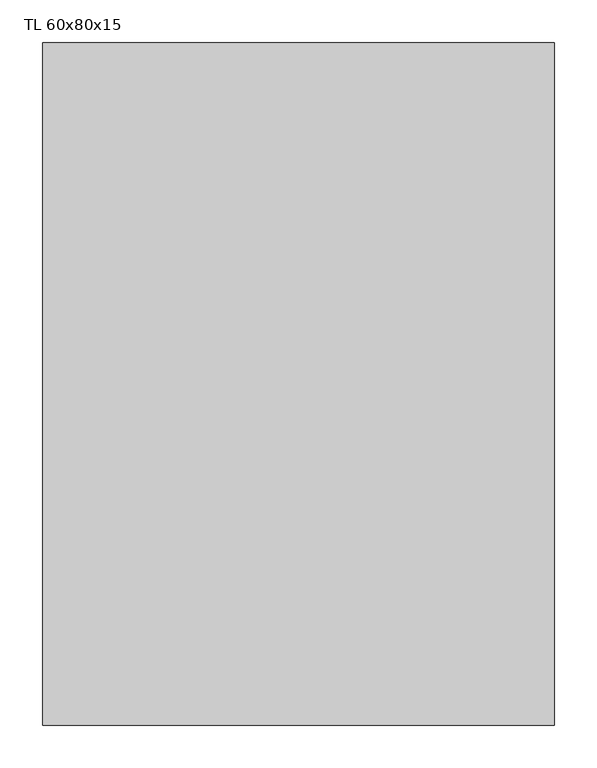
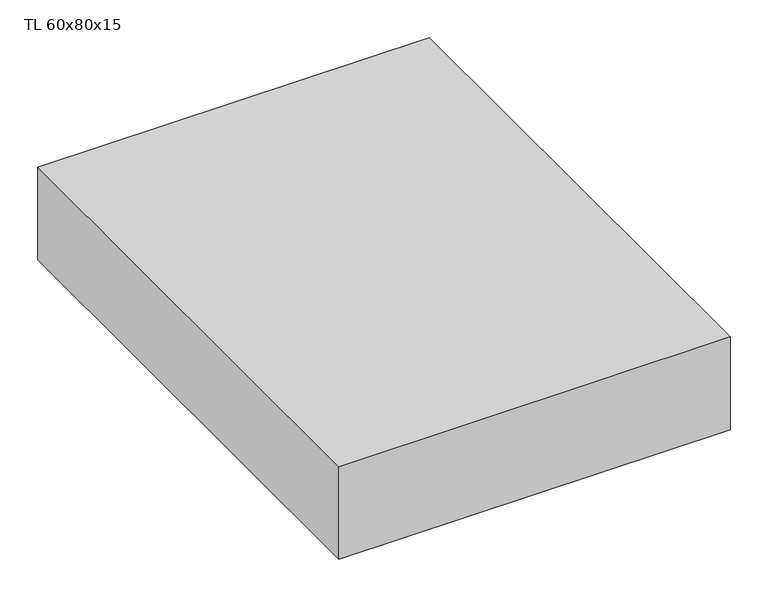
"""IFC4 building model written with IfcOpenShell, lengths in millimetres: proxy geometry, TABLERO ELECTRICO DE SUPERFICIE : TL 60x80x15."""

import ifcopenshell
import ifcopenshell.guid

model = None  # the IFC model being written
_history = None  # IfcOwnerHistory: only IFC2X3 demands one
_inside = {}  # id of a spatial element -> (the spatial element, [elements in it])
_under = {}  # id of a project, library or spatial element -> (it, [spatial elements below it])
_declared = {}  # id of a project -> (the project, [libraries it declares])
_typed = {}  # id of a type object -> (the type object, [elements of that type])
_made_of = {}  # id of a material, layer set ... -> (it, [elements and type objects made of it])


def new_model(schema):
    """Start an empty IFC model of exactly this schema.

    Asked for "IFC4X3", IfcOpenShell would pick the latest addendum, in which some entities
    have other attributes; the version numbers below select the first issue.
    IFC2X3 requires an IfcOwnerHistory on every rooted entity: one is made here for all.
    """
    global model, _history
    if schema == "IFC4X3":
        model = ifcopenshell.file(schema_version=(4, 3, 0, 0))
    else:
        model = ifcopenshell.file(schema=schema)
    _inside.clear()
    _under.clear()
    _declared.clear()
    _typed.clear()
    _made_of.clear()
    _history = None
    if model.schema == "IFC2X3":
        org = make("IfcOrganization", Name="unknown")
        user = make(
            "IfcPersonAndOrganization",
            ThePerson=make("IfcPerson", FamilyName="unknown"),
            TheOrganization=org,
        )
        app = make(
            "IfcApplication",
            ApplicationDeveloper=org,
            Version="unknown",
            ApplicationFullName="unknown",
            ApplicationIdentifier="unknown",
        )
        _history = make(
            "IfcOwnerHistory",
            OwningUser=user,
            OwningApplication=app,
            ChangeAction="ADDED",
            CreationDate=0,
        )
    return model


def make(cls, **values):
    """One entity of the class cls with the attributes given. An attribute that is None is left unset."""
    return model.create_entity(
        cls, **{name: value for name, value in values.items() if value is not None}
    )


def rooted(cls, **values):
    """An entity with a GlobalId (a new one), such as an element, a storey or a relation."""
    return make(cls, GlobalId=ifcopenshell.guid.new(), OwnerHistory=_history, **values)


def si_unit(unit_type, name, prefix=None):
    """IfcSIUnit, for example si_unit("LENGTHUNIT", "METRE", prefix="MILLI")."""
    return make("IfcSIUnit", UnitType=unit_type, Prefix=prefix, Name=name)


def assignment(units):
    """IfcUnitAssignment: the units of a project."""
    return None if units is None else make("IfcUnitAssignment", Units=units)


def point(xyz):
    """IfcCartesianPoint."""
    return None if xyz is None else make("IfcCartesianPoint", Coordinates=xyz)


def direction(xyz):
    """IfcDirection."""
    return None if xyz is None else make("IfcDirection", DirectionRatios=xyz)


def frame(location, z_axis=None, x_axis=None):
    """IfcAxis2Placement3D, a coordinate frame: its origin and axes. An axis left out is left unset."""
    return make(
        "IfcAxis2Placement3D",
        Location=point(location),
        Axis=direction(z_axis),
        RefDirection=direction(x_axis),
    )


def origin():
    """The frame at (0, 0, 0) with its axes left unset."""
    return frame((0.0, 0.0, 0.0))


def origin_with_axes():
    """The frame at (0, 0, 0) with the z axis (0, 0, 1) and the x axis (1, 0, 0) written out."""
    return frame((0.0, 0.0, 0.0), z_axis=(0.0, 0.0, 1.0), x_axis=(1.0, 0.0, 0.0))


def place(relative_to, where):
    """IfcLocalPlacement: puts the frame where relative to a parent placement (None: the world)."""
    return make(
        "IfcLocalPlacement", PlacementRelTo=relative_to, RelativePlacement=where
    )


def context(
    kind, dimensions, precision=None, world=None, true_north=None, identifier=None
):
    """IfcGeometricRepresentationContext, for example the 3D "Model" context."""
    return make(
        "IfcGeometricRepresentationContext",
        ContextIdentifier=identifier,
        ContextType=kind,
        CoordinateSpaceDimension=dimensions,
        Precision=precision,
        WorldCoordinateSystem=world,
        TrueNorth=true_north,
    )


def project(units=None, contexts=None):
    """IfcProject with its units and contexts."""
    return rooted(
        "IfcProject",
        Name="project",
        RepresentationContexts=contexts,
        UnitsInContext=assignment(units),
    )


def spatial(cls, under=None, at=None, **own):
    """A site, building, storey or space (cls), placed at a placement, below another one or the project."""
    s = rooted(cls, ObjectPlacement=at, **own)
    if under is not None:
        _under.setdefault(under.id(), (under, []))[1].append(s)
    return s


def polyline(points):
    """IfcPolyline through the points."""
    return make("IfcPolyline", Points=[point(p) for p in points])


def outline(outer, holes=None, kind="AREA"):
    """IfcArbitraryClosedProfileDef: a profile drawn as a closed curve; with holes, ...WithVoids."""
    if holes is None:
        return make("IfcArbitraryClosedProfileDef", ProfileType=kind, OuterCurve=outer)
    return make(
        "IfcArbitraryProfileDefWithVoids",
        ProfileType=kind,
        OuterCurve=outer,
        InnerCurves=holes,
    )


def extrude(swept, where, along, depth):
    """IfcExtrudedAreaSolid: the profile swept, set in the frame where, extruded along a direction by depth."""
    return make(
        "IfcExtrudedAreaSolid",
        SweptArea=swept,
        Position=where,
        ExtrudedDirection=direction(along),
        Depth=depth,
    )


def shape(context_of_items, identifier, shape_type, items):
    """IfcShapeRepresentation: the items that make up one representation, for example the "Body"."""
    return make(
        "IfcShapeRepresentation",
        ContextOfItems=context_of_items,
        RepresentationIdentifier=identifier,
        RepresentationType=shape_type,
        Items=items,
    )


def source(mapping_origin, context_of_items, identifier, shape_type, items):
    """IfcRepresentationMap: a shape defined once, which mapped items show again and again."""
    return make(
        "IfcRepresentationMap",
        MappingOrigin=mapping_origin,
        MappedRepresentation=shape(context_of_items, identifier, shape_type, items),
    )


def transform(
    local_origin,
    x_axis=None,
    y_axis=None,
    z_axis=None,
    scale=None,
    scale2=None,
    scale3=None,
    uniform=True,
):
    """IfcCartesianTransformationOperator3D, or its non-uniform kind. x_axis, y_axis, z_axis: its Axis1, 2, 3."""
    if uniform:
        return make(
            "IfcCartesianTransformationOperator3D",
            Axis1=direction(x_axis),
            Axis2=direction(y_axis),
            LocalOrigin=point(local_origin),
            Scale=scale,
            Axis3=direction(z_axis),
        )
    return make(
        "IfcCartesianTransformationOperator3DnonUniform",
        Axis1=direction(x_axis),
        Axis2=direction(y_axis),
        LocalOrigin=point(local_origin),
        Scale=scale,
        Axis3=direction(z_axis),
        Scale2=scale2,
        Scale3=scale3,
    )


def mapped(mapping_source, mapping_target):
    """IfcMappedItem: shows the shape of a source again, moved by a transform."""
    return make(
        "IfcMappedItem", MappingSource=mapping_source, MappingTarget=mapping_target
    )


def made_of(thing, what):
    """Note that an element or type object is made of a material, layer set ...; save() writes the relation."""
    if what is not None:
        _made_of.setdefault(what.id(), (what, []))[1].append(thing)
    return thing


def element(
    cls,
    number,
    at=None,
    inside=None,
    cuts=None,
    type_object=None,
    material=None,
    context=None,
    identifier="Body",
    shape_type=None,
    held_by="IfcProductDefinitionShape",
    body=None,
    shapes=None,
    **own,
):
    """One element of the class cls, such as IfcWall. Its Tag is "e" and its number.

    at: its placement. inside: the storey or other place that contains it. cuts: it is an
    opening in that element (IfcRelVoidsElement). A single representation is given by context,
    identifier, shape_type and body (its items); several are given by shapes. held_by: the class
    of the entity that holds the representations. save() writes the other relations.
    """
    e = rooted(cls, Tag="e%d" % number, ObjectPlacement=at, **own)
    if body is not None:
        shapes = [shape(context, identifier, shape_type, body)]
    if shapes is not None:
        e.Representation = make(held_by, Representations=shapes)
    if inside is not None:
        _inside.setdefault(inside.id(), (inside, []))[1].append(e)
    if cuts is not None:
        rooted(
            "IfcRelVoidsElement", RelatingBuildingElement=cuts, RelatedOpeningElement=e
        )
    if type_object is not None:
        _typed.setdefault(type_object.id(), (type_object, []))[1].append(e)
    return made_of(e, material)


def aggregate(whole, parts):
    """IfcRelAggregates: a whole, such as a stair, and the parts it consists of."""
    return rooted("IfcRelAggregates", RelatingObject=whole, RelatedObjects=parts)


def save(model, path):
    """Write the relations noted so far, then the file.

    IfcRelAggregates (storeys below a building ...), IfcRelContainedInSpatialStructure (elements
    in a storey), IfcRelDefinesByType, IfcRelAssociatesMaterial and IfcRelDeclares: one each for
    every whole, place, type object, material and project.
    """
    for whole, parts in _under.values():
        aggregate(whole, parts)
    for where, things in _inside.values():
        rooted(
            "IfcRelContainedInSpatialStructure",
            RelatedElements=things,
            RelatingStructure=where,
        )
    for kind, things in _typed.values():
        rooted("IfcRelDefinesByType", RelatedObjects=things, RelatingType=kind)
    for what, things in _made_of.values():
        rooted("IfcRelAssociatesMaterial", RelatedObjects=things, RelatingMaterial=what)
    for by, libraries in _declared.values():
        rooted("IfcRelDeclares", RelatingContext=by, RelatedDefinitions=libraries)
    model.write(path)


def tl_60x80x15_6a5c2496(model_context):
    return source(origin(), model_context, "Body", "SweptSolid", [
        extrude(outline(polyline([(300.0, 0.0), (-300.0, 0.0), (-300.0, 800.0), (300.0, 800.0), (300.0, 0.0)])), origin_with_axes(), (0.0, 0.0, 1.0), 150.0),
    ])


if __name__ == "__main__":
    model = new_model("IFC4")
    model_context = context("Model", 3, world=origin())
    ifc_project = project(units=[si_unit("LENGTHUNIT", "METRE", prefix="MILLI")], contexts=[model_context])
    site = spatial("IfcSite", under=ifc_project)
    building = spatial("IfcBuilding", under=site)
    placement = place(None, origin())
    tl_60x80x15_shape = tl_60x80x15_6a5c2496(model_context)
    element("IfcBuildingElementProxy", 1, Name="TABLERO ELECTRICO DE SUPERFICIE : TL 60x80x15", ObjectType="TABLERO ELECTRICO DE SUPERFICIE : TL 60x80x15", at=placement, inside=building, context=model_context, shape_type="MappedRepresentation", body=[
        mapped(tl_60x80x15_shape, transform((0.0, 0.0, 0.0), x_axis=(1.0, 0.0, 0.0), y_axis=(0.0, 1.0, 0.0), z_axis=(0.0, 0.0, 1.0))),
    ])
    save(model, "model.ifc")
